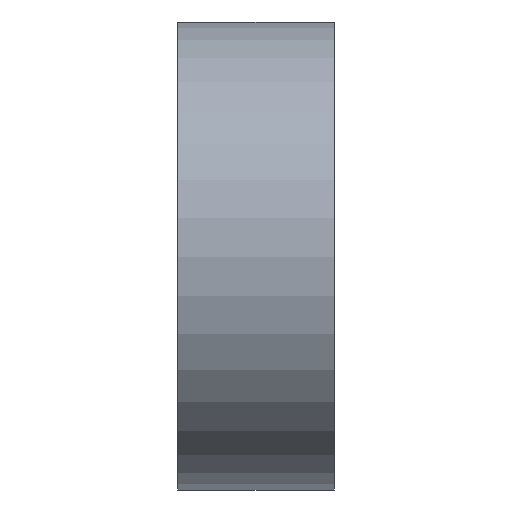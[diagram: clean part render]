
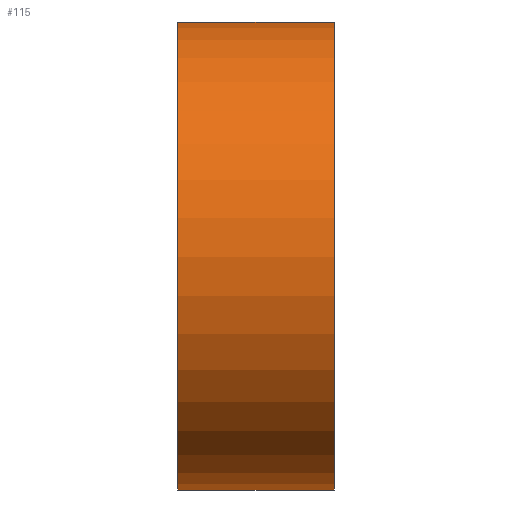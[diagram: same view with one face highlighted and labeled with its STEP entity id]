
A CAD part, front view. The second image highlights one B-rep face of the part: STEP entity #115.
In plain terms, the highlighted cylindrical face has radius 3.75 mm (diameter 7.5 mm), a partial arc.
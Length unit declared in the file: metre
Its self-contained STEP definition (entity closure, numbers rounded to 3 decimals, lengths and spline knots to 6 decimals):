
#19=LINE('',#195,#27);
#21=LINE('',#201,#29);
#27=VECTOR('',#159,1.);
#29=VECTOR('',#165,1.);
#40=ORIENTED_EDGE('',*,*,#67,.T.);
#41=ORIENTED_EDGE('',*,*,#68,.F.);
#42=ORIENTED_EDGE('',*,*,#69,.F.);
#43=ORIENTED_EDGE('',*,*,#65,.T.);
#65=EDGE_CURVE('',#79,#78,#19,.T.);
#67=EDGE_CURVE('',#78,#80,#86,.T.);
#68=EDGE_CURVE('',#81,#80,#21,.T.);
#69=EDGE_CURVE('',#79,#81,#87,.T.);
#78=VERTEX_POINT('',#194);
#79=VERTEX_POINT('',#196);
#80=VERTEX_POINT('',#200);
#81=VERTEX_POINT('',#202);
#86=CIRCLE('',#138,0.00375);
#87=CIRCLE('',#139,0.00375);
#92=EDGE_LOOP('',(#40,#41,#42,#43));
#102=FACE_BOUND('',#92,.T.);
#111=CYLINDRICAL_SURFACE('',#137,0.00375);
#115=ADVANCED_FACE('',(#102),#111,.T.);
#137=AXIS2_PLACEMENT_3D('',#198,#161,#162);
#138=AXIS2_PLACEMENT_3D('',#199,#163,#164);
#139=AXIS2_PLACEMENT_3D('',#203,#166,#167);
#159=DIRECTION('',(-1.,0.,0.));
#161=DIRECTION('',(-1.,0.,0.));
#162=DIRECTION('',(0.,0.,1.));
#163=DIRECTION('',(1.,0.,0.));
#164=DIRECTION('',(0.,0.,-1.));
#165=DIRECTION('',(-1.,0.,0.));
#166=DIRECTION('',(1.,0.,0.));
#167=DIRECTION('',(0.,0.,-1.));
#194=CARTESIAN_POINT('',(0.,-0.005918,0.008729));
#195=CARTESIAN_POINT('',(0.0025,-0.005918,0.008729));
#196=CARTESIAN_POINT('',(0.0025,-0.005918,0.008729));
#198=CARTESIAN_POINT('',(0.0025,-0.006298,0.004998));
#199=CARTESIAN_POINT('',(0.,-0.006298,0.004998));
#200=CARTESIAN_POINT('',(0.,-0.005886,0.001271));
#201=CARTESIAN_POINT('',(0.0025,-0.005886,0.001271));
#202=CARTESIAN_POINT('',(0.0025,-0.005886,0.001271));
#203=CARTESIAN_POINT('',(0.0025,-0.006298,0.004998));
